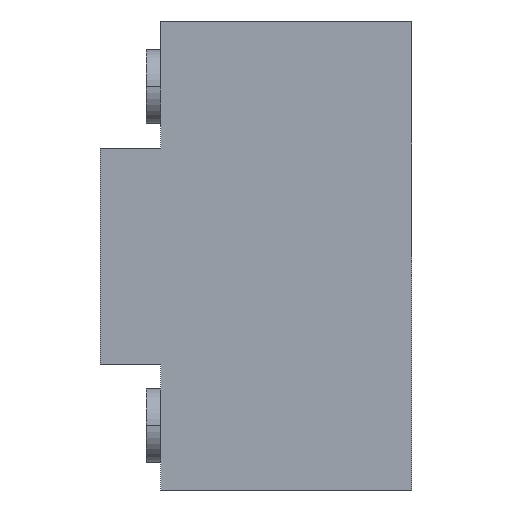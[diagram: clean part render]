
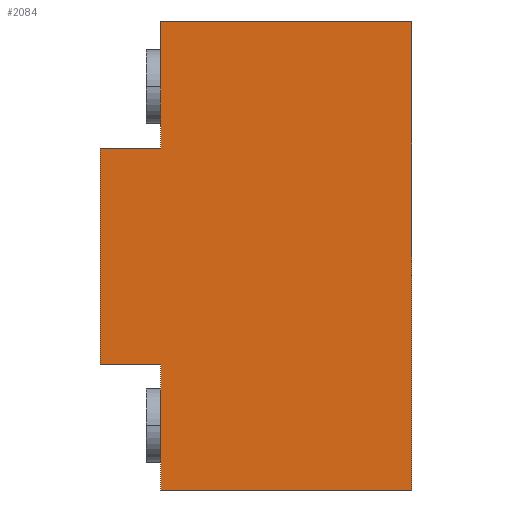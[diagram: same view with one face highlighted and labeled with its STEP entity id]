
A CAD part, left-side view. The second image highlights one B-rep face of the part: STEP entity #2084.
In plain terms, the highlighted planar face has unit normal (-1, 0, 0).
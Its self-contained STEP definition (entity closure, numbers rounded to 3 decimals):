
#1=DIRECTION('',(0.,1.,0.));
#2=VECTOR('',#1,34.9);
#3=CARTESIAN_POINT('',(-100.1,0.,-32.5));
#4=LINE('',#3,#2);
#5=DIRECTION('',(0.,0.,1.));
#6=VECTOR('',#5,17.5);
#7=CARTESIAN_POINT('',(-100.1,34.9,-32.5));
#8=LINE('',#7,#6);
#9=DIRECTION('',(0.,1.,0.));
#10=VECTOR('',#9,8.4);
#11=CARTESIAN_POINT('',(-100.1,34.9,-15.));
#12=LINE('',#11,#10);
#13=DIRECTION('',(0.,0.,1.));
#14=VECTOR('',#13,30.);
#15=CARTESIAN_POINT('',(-100.1,43.3,-15.));
#16=LINE('',#15,#14);
#17=DIRECTION('',(0.,-1.,0.));
#18=VECTOR('',#17,8.4);
#19=CARTESIAN_POINT('',(-100.1,43.3,15.));
#20=LINE('',#19,#18);
#21=DIRECTION('',(0.,0.,1.));
#22=VECTOR('',#21,17.5);
#23=CARTESIAN_POINT('',(-100.1,34.9,15.));
#24=LINE('',#23,#22);
#25=DIRECTION('',(0.,-1.,0.));
#26=VECTOR('',#25,34.9);
#27=CARTESIAN_POINT('',(-100.1,34.9,32.5));
#28=LINE('',#27,#26);
#29=DIRECTION('',(0.,0.,-1.));
#30=VECTOR('',#29,65.);
#31=CARTESIAN_POINT('',(-100.1,0.,32.5));
#32=LINE('',#31,#30);
#1577=CARTESIAN_POINT('',(-100.1,0.,-32.5));
#1578=CARTESIAN_POINT('',(-100.1,34.9,-32.5));
#1579=VERTEX_POINT('',#1577);
#1580=VERTEX_POINT('',#1578);
#1581=CARTESIAN_POINT('',(-100.1,34.9,-15.));
#1582=VERTEX_POINT('',#1581);
#1583=CARTESIAN_POINT('',(-100.1,43.3,-15.));
#1584=VERTEX_POINT('',#1583);
#1585=CARTESIAN_POINT('',(-100.1,43.3,15.));
#1586=VERTEX_POINT('',#1585);
#1587=CARTESIAN_POINT('',(-100.1,34.9,15.));
#1588=VERTEX_POINT('',#1587);
#1589=CARTESIAN_POINT('',(-100.1,34.9,32.5));
#1590=VERTEX_POINT('',#1589);
#1591=CARTESIAN_POINT('',(-100.1,0.,32.5));
#1592=VERTEX_POINT('',#1591);
#2061=CARTESIAN_POINT('',(-100.1,0.,0.));
#2062=DIRECTION('',(1.,0.,0.));
#2063=DIRECTION('',(0.,-1.,0.));
#2064=AXIS2_PLACEMENT_3D('',#2061,#2062,#2063);
#2065=PLANE('',#2064);
#2067=ORIENTED_EDGE('',*,*,#2066,.T.);
#2069=ORIENTED_EDGE('',*,*,#2068,.T.);
#2071=ORIENTED_EDGE('',*,*,#2070,.T.);
#2073=ORIENTED_EDGE('',*,*,#2072,.T.);
#2075=ORIENTED_EDGE('',*,*,#2074,.T.);
#2077=ORIENTED_EDGE('',*,*,#2076,.T.);
#2079=ORIENTED_EDGE('',*,*,#2078,.T.);
#2081=ORIENTED_EDGE('',*,*,#2080,.T.);
#2082=EDGE_LOOP('',(#2067,#2069,#2071,#2073,#2075,#2077,#2079,#2081));
#2083=FACE_OUTER_BOUND('',#2082,.F.);
#2084=ADVANCED_FACE('',(#2083),#2065,.F.);
#2066=EDGE_CURVE('',#1579,#1580,#4,.T.);
#2068=EDGE_CURVE('',#1580,#1582,#8,.T.);
#2070=EDGE_CURVE('',#1582,#1584,#12,.T.);
#2072=EDGE_CURVE('',#1584,#1586,#16,.T.);
#2074=EDGE_CURVE('',#1586,#1588,#20,.T.);
#2076=EDGE_CURVE('',#1588,#1590,#24,.T.);
#2078=EDGE_CURVE('',#1590,#1592,#28,.T.);
#2080=EDGE_CURVE('',#1592,#1579,#32,.T.);
